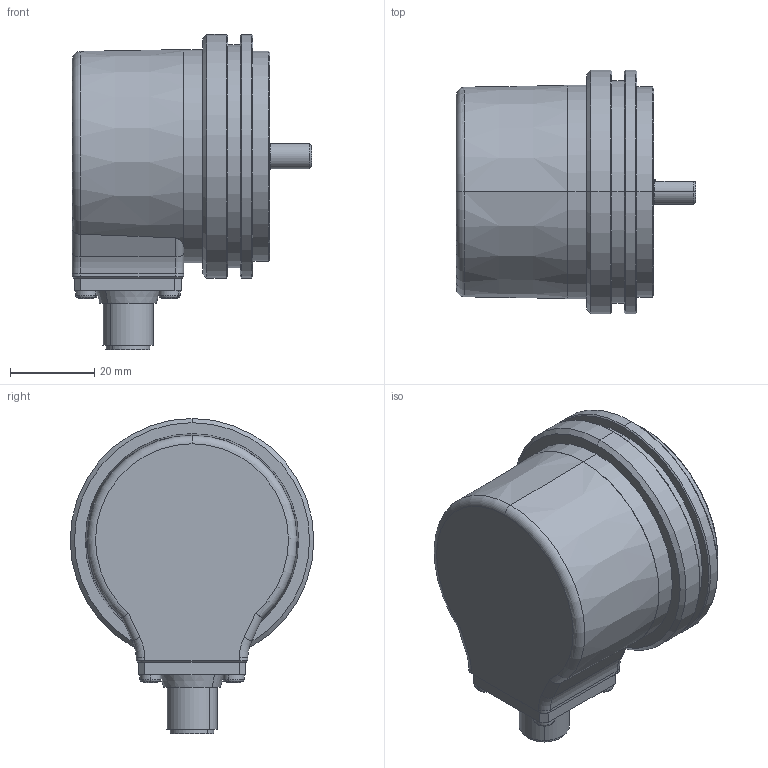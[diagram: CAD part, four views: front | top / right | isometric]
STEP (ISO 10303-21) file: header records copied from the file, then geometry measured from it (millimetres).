
FILE_DESCRIPTION (( 'STEP AP214' ), '1' );
FILE_NAME ('5000.B1X4.XXXX.STEP', '2009-01-14T08:40:32', ( 'admin' ), ( 'Fritz Kübler GmbH' ), 'SwSTEP 2.0', 'SolidWorks 2008', '' );
FILE_SCHEMA (( 'AUTOMOTIVE_DESIGN' ));
Length unit declared in the file: millimetre
Products named in the file (1): 5000.B1X4.XXXX
Bounding box: 57 x 58 x 75 mm (x, y, z)
Volume: 62517.9 mm3; surface area: 34653 mm2
Topology: 9 solids, 10 shells, 516 faces, 1245 edges, 752 vertices
Faces by surface type: cylinder 158, plane 152, cone 89, torus 59, sphere 48, bspline 10
Entity records: 21149 total; most frequent: CARTESIAN_POINT 3594, DIRECTION 2671, ORIENTED_EDGE 2294, EDGE_CURVE 1147, AXIS2_PLACEMENT_3D 1113, VERTEX_POINT 706, EDGE_LOOP 607, CIRCLE 606
